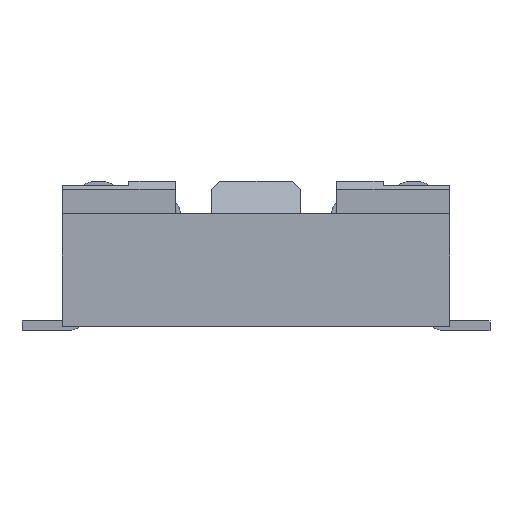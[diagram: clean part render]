
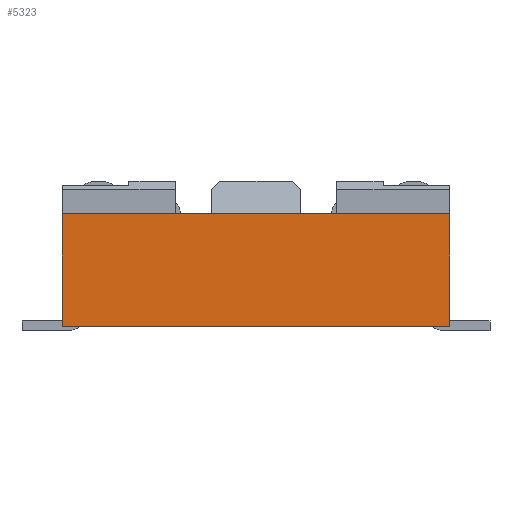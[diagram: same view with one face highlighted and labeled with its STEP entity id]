
A CAD part, left-side view. The second image highlights one B-rep face of the part: STEP entity #5323.
In plain terms, the highlighted planar face has unit normal (-1, 0, 0).
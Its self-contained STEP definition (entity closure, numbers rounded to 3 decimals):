
#226=DIRECTION('',(0.,-1.,0.));
#227=VECTOR('',#226,4.8);
#228=CARTESIAN_POINT('',(-1.75,2.4,0.));
#229=LINE('',#228,#227);
#230=DIRECTION('',(0.,0.,1.));
#231=VECTOR('',#230,1.4);
#232=CARTESIAN_POINT('',(-1.75,2.4,0.));
#233=LINE('',#232,#231);
#234=DIRECTION('',(0.,-1.,0.));
#235=VECTOR('',#234,4.8);
#236=CARTESIAN_POINT('',(-1.75,2.4,1.4));
#237=LINE('',#236,#235);
#238=DIRECTION('',(0.,0.,1.));
#239=VECTOR('',#238,1.4);
#240=CARTESIAN_POINT('',(-1.75,-2.4,0.));
#241=LINE('',#240,#239);
#4006=CARTESIAN_POINT('',(-1.75,2.4,0.));
#4007=CARTESIAN_POINT('',(-1.75,-2.4,0.));
#4008=VERTEX_POINT('',#4006);
#4009=VERTEX_POINT('',#4007);
#4042=CARTESIAN_POINT('',(-1.75,-2.4,1.4));
#4043=VERTEX_POINT('',#4042);
#4096=CARTESIAN_POINT('',(-1.75,2.4,1.4));
#4097=VERTEX_POINT('',#4096);
#5309=CARTESIAN_POINT('',(-1.75,0.,0.7));
#5310=DIRECTION('',(1.,0.,0.));
#5311=DIRECTION('',(0.,-1.,0.));
#5312=AXIS2_PLACEMENT_3D('',#5309,#5310,#5311);
#5313=PLANE('',#5312);
#5315=ORIENTED_EDGE('',*,*,#5314,.F.);
#5317=ORIENTED_EDGE('',*,*,#5316,.T.);
#5318=ORIENTED_EDGE('',*,*,#5285,.T.);
#5320=ORIENTED_EDGE('',*,*,#5319,.F.);
#5321=EDGE_LOOP('',(#5315,#5317,#5318,#5320));
#5322=FACE_OUTER_BOUND('',#5321,.F.);
#5323=ADVANCED_FACE('',(#5322),#5313,.F.);
#5285=EDGE_CURVE('',#4097,#4043,#237,.T.);
#5314=EDGE_CURVE('',#4008,#4009,#229,.T.);
#5316=EDGE_CURVE('',#4008,#4097,#233,.T.);
#5319=EDGE_CURVE('',#4009,#4043,#241,.T.);
